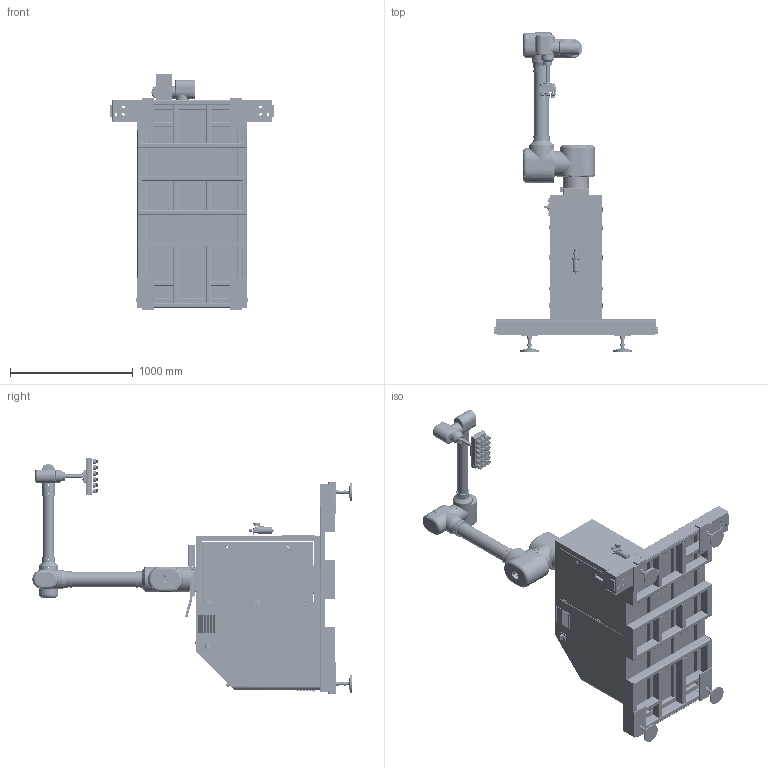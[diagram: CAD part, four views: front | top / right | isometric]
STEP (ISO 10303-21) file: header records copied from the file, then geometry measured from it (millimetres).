
FILE_DESCRIPTION (( 'STEP AP214' ), '1' );
FILE_NAME ('WP40.STEP', '2025-03-17T06:58:44', ( '' ), ( '' ), 'SwSTEP 2.0', 'SolidWorks 2018', '' );
FILE_SCHEMA (( 'AUTOMOTIVE_DESIGN' ));
Length unit declared in the file: millimetre
Products named in the file (2): WP40
Bounding box: 1330 x 2600.75 x 1925 mm (x, y, z)
Surface area: 19751253 mm2 (no closed solid volume)
Topology: 0 solids, 1106 shells, 4802 faces, 19430 edges, 15103 vertices
Faces by surface type: cylinder 2068, plane 1599, cone 650, bspline 226, torus 171, sphere 88
Entity records: 318711 total; most frequent: CARTESIAN_POINT 109480, DIRECTION 33426, ORIENTED_EDGE 26157, EDGE_CURVE 19163, VERTEX_POINT 15058, AXIS2_PLACEMENT_3D 12243, VECTOR 8940, LINE 8940
